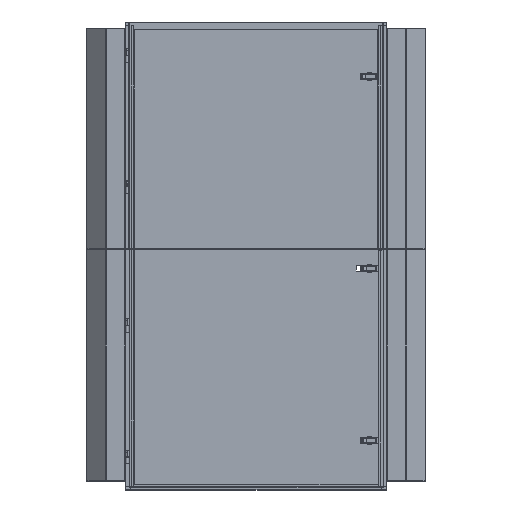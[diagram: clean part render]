
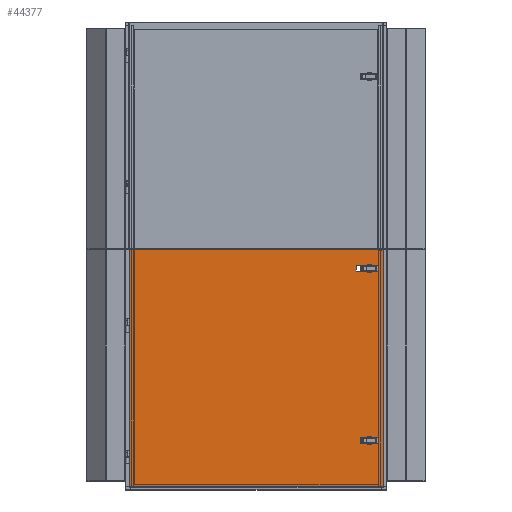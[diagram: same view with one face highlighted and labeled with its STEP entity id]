
A CAD part, top view. The second image highlights one B-rep face of the part: STEP entity #44377.
In plain terms, the highlighted planar face has unit normal (0, 0, -1).
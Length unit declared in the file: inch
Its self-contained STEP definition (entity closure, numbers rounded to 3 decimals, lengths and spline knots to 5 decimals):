
#986 = LINE ( 'NONE', #42056, #50184 ) ;
#1161 = ORIENTED_EDGE ( 'NONE', *, *, #92120, .F. ) ;
#1204 = LINE ( 'NONE', #119351, #76523 ) ;
#1664 = DIRECTION ( 'NONE',  ( 1., 0., 0. ) ) ;
#4152 = EDGE_CURVE ( 'NONE', #106343, #53897, #34407, .T. ) ;
#5712 = VERTEX_POINT ( 'NONE', #86915 ) ;
#7703 = DIRECTION ( 'NONE',  ( 0., -1., 0. ) ) ;
#8268 = ORIENTED_EDGE ( 'NONE', *, *, #70766, .F. ) ;
#8371 = CARTESIAN_POINT ( 'NONE',  ( 7.77491, 0.99551, 0. ) ) ;
#9951 = EDGE_CURVE ( 'NONE', #107104, #79153, #1204, .T. ) ;
#9964 = DIRECTION ( 'NONE',  ( 0., 1., 0. ) ) ;
#10878 = CARTESIAN_POINT ( 'NONE',  ( 54.07396, 1.08038, 0. ) ) ;
#11323 = LINE ( 'NONE', #72010, #89666 ) ;
#11699 = ORIENTED_EDGE ( 'NONE', *, *, #118081, .F. ) ;
#12441 = CARTESIAN_POINT ( 'NONE',  ( 53.16186, 40.49551, 0. ) ) ;
#13146 = DIRECTION ( 'NONE',  ( 0., 1., 0. ) ) ;
#17742 = DIRECTION ( 'NONE',  ( 1., 0., 0. ) ) ;
#18298 = DIRECTION ( 'NONE',  ( 0., -1., 0. ) ) ;
#18843 = VECTOR ( 'NONE', #76473, 39.37008 ) ;
#19859 = CARTESIAN_POINT ( 'NONE',  ( 50.10186, 8.99551, 0. ) ) ;
#21048 = DIRECTION ( 'NONE',  ( -1., 0., 0. ) ) ;
#21254 = FACE_BOUND ( 'NONE', #24770, .T. ) ;
#21629 = ORIENTED_EDGE ( 'NONE', *, *, #80020, .F. ) ;
#23246 = CARTESIAN_POINT ( 'NONE',  ( 50.10186, 9.99551, 0. ) ) ;
#24250 = ORIENTED_EDGE ( 'NONE', *, *, #123549, .F. ) ;
#24770 = EDGE_LOOP ( 'NONE', ( #8268, #83079, #79878, #85217 ) ) ;
#25394 = LINE ( 'NONE', #62247, #74592 ) ;
#26860 = CARTESIAN_POINT ( 'NONE',  ( 53.16186, 8.99551, 0. ) ) ;
#27422 = CARTESIAN_POINT ( 'NONE',  ( 53.16186, 40.49551, 0. ) ) ;
#28527 = VERTEX_POINT ( 'NONE', #26860 ) ;
#30214 = VECTOR ( 'NONE', #7703, 39.37008 ) ;
#31303 = VECTOR ( 'NONE', #81189, 39.37008 ) ;
#33322 = LINE ( 'NONE', #27422, #30214 ) ;
#34112 = DIRECTION ( 'NONE',  ( 1., 0., 0. ) ) ;
#34407 = LINE ( 'NONE', #71354, #31303 ) ;
#35005 = VECTOR ( 'NONE', #111543, 39.37008 ) ;
#38084 = LINE ( 'NONE', #101719, #35005 ) ;
#39131 = VECTOR ( 'NONE', #18298, 39.37008 ) ;
#40384 = EDGE_CURVE ( 'NONE', #28527, #5712, #38084, .T. ) ;
#40820 = CARTESIAN_POINT ( 'NONE',  ( 53.16186, 9.99551, 0. ) ) ;
#42056 = CARTESIAN_POINT ( 'NONE',  ( 54.15884, 1.08038, 0. ) ) ;
#42217 = LINE ( 'NONE', #8371, #39131 ) ;
#42642 = ORIENTED_EDGE ( 'NONE', *, *, #98975, .F. ) ;
#44377 = ADVANCED_FACE ( 'NONE', ( #70412, #122631, #21254 ), #115621, .F. ) ;
#45065 = EDGE_LOOP ( 'NONE', ( #24250, #21629, #94872, #87403 ) ) ;
#45704 = CARTESIAN_POINT ( 'NONE',  ( 54.07396, 44.41063, 0. ) ) ;
#50184 = VECTOR ( 'NONE', #71651, 39.37008 ) ;
#51066 = LINE ( 'NONE', #40820, #123268 ) ;
#53897 = VERTEX_POINT ( 'NONE', #75245 ) ;
#54000 = EDGE_CURVE ( 'NONE', #79153, #69437, #123301, .T. ) ;
#61770 = VERTEX_POINT ( 'NONE', #123035 ) ;
#62247 = CARTESIAN_POINT ( 'NONE',  ( 53.16186, 8.99551, 0. ) ) ;
#63829 = LINE ( 'NONE', #83049, #112989 ) ;
#65688 = AXIS2_PLACEMENT_3D ( 'NONE', #105769, #76542, #17742 ) ;
#66599 = CARTESIAN_POINT ( 'NONE',  ( 49.21186, 40.49551, 0. ) ) ;
#67298 = CARTESIAN_POINT ( 'NONE',  ( 49.21186, 41.49551, 0. ) ) ;
#69437 = VERTEX_POINT ( 'NONE', #67298 ) ;
#70412 = FACE_OUTER_BOUND ( 'NONE', #78570, .T. ) ;
#70766 = EDGE_CURVE ( 'NONE', #72811, #61770, #51066, .T. ) ;
#71354 = CARTESIAN_POINT ( 'NONE',  ( 54.15884, 44.41063, 0. ) ) ;
#71651 = DIRECTION ( 'NONE',  ( 1., 0., 0. ) ) ;
#72010 = CARTESIAN_POINT ( 'NONE',  ( 54.07396, 0.99551, 0. ) ) ;
#72811 = VERTEX_POINT ( 'NONE', #23246 ) ;
#74592 = VECTOR ( 'NONE', #101805, 39.37008 ) ;
#75245 = CARTESIAN_POINT ( 'NONE',  ( 7.77491, 44.41063, 0. ) ) ;
#75387 = EDGE_CURVE ( 'NONE', #61770, #28527, #25394, .T. ) ;
#76473 = DIRECTION ( 'NONE',  ( 0., 1., 0. ) ) ;
#76523 = VECTOR ( 'NONE', #21048, 39.37008 ) ;
#76542 = DIRECTION ( 'NONE',  ( 0., 0., 1. ) ) ;
#78570 = EDGE_LOOP ( 'NONE', ( #42642, #11699, #1161, #86396 ) ) ;
#79153 = VERTEX_POINT ( 'NONE', #83448 ) ;
#79878 = ORIENTED_EDGE ( 'NONE', *, *, #40384, .F. ) ;
#80020 = EDGE_CURVE ( 'NONE', #69437, #121623, #63829, .T. ) ;
#81189 = DIRECTION ( 'NONE',  ( -1., 0., 0. ) ) ;
#83049 = CARTESIAN_POINT ( 'NONE',  ( 53.16186, 41.49551, 0. ) ) ;
#83079 = ORIENTED_EDGE ( 'NONE', *, *, #95620, .F. ) ;
#83448 = CARTESIAN_POINT ( 'NONE',  ( 49.21186, 40.49551, 0. ) ) ;
#85217 = ORIENTED_EDGE ( 'NONE', *, *, #75387, .F. ) ;
#86396 = ORIENTED_EDGE ( 'NONE', *, *, #4152, .F. ) ;
#86915 = CARTESIAN_POINT ( 'NONE',  ( 50.10186, 8.99551, 0. ) ) ;
#87403 = ORIENTED_EDGE ( 'NONE', *, *, #9951, .F. ) ;
#87619 = VERTEX_POINT ( 'NONE', #10878 ) ;
#89666 = VECTOR ( 'NONE', #13146, 39.37008 ) ;
#92120 = EDGE_CURVE ( 'NONE', #53897, #126992, #42217, .T. ) ;
#94872 = ORIENTED_EDGE ( 'NONE', *, *, #54000, .F. ) ;
#95141 = LINE ( 'NONE', #19859, #101338 ) ;
#95620 = EDGE_CURVE ( 'NONE', #5712, #72811, #95141, .T. ) ;
#98975 = EDGE_CURVE ( 'NONE', #87619, #106343, #11323, .T. ) ;
#101338 = VECTOR ( 'NONE', #9964, 39.37008 ) ;
#101719 = CARTESIAN_POINT ( 'NONE',  ( 53.16186, 8.99551, 0. ) ) ;
#101805 = DIRECTION ( 'NONE',  ( 0., -1., 0. ) ) ;
#103132 = CARTESIAN_POINT ( 'NONE',  ( 7.77491, 1.08038, 0. ) ) ;
#105769 = CARTESIAN_POINT ( 'NONE',  ( 54.15884, 0.99551, 0. ) ) ;
#106343 = VERTEX_POINT ( 'NONE', #45704 ) ;
#107104 = VERTEX_POINT ( 'NONE', #12441 ) ;
#111543 = DIRECTION ( 'NONE',  ( -1., 0., 0. ) ) ;
#112989 = VECTOR ( 'NONE', #34112, 39.37008 ) ;
#115621 = PLANE ( 'NONE',  #65688 ) ;
#118081 = EDGE_CURVE ( 'NONE', #126992, #87619, #986, .T. ) ;
#119351 = CARTESIAN_POINT ( 'NONE',  ( 53.16186, 40.49551, 0. ) ) ;
#121623 = VERTEX_POINT ( 'NONE', #123336 ) ;
#122631 = FACE_BOUND ( 'NONE', #45065, .T. ) ;
#123035 = CARTESIAN_POINT ( 'NONE',  ( 53.16186, 9.99551, 0. ) ) ;
#123268 = VECTOR ( 'NONE', #1664, 39.37008 ) ;
#123301 = LINE ( 'NONE', #66599, #18843 ) ;
#123336 = CARTESIAN_POINT ( 'NONE',  ( 53.16186, 41.49551, 0. ) ) ;
#123549 = EDGE_CURVE ( 'NONE', #121623, #107104, #33322, .T. ) ;
#126992 = VERTEX_POINT ( 'NONE', #103132 ) ;
